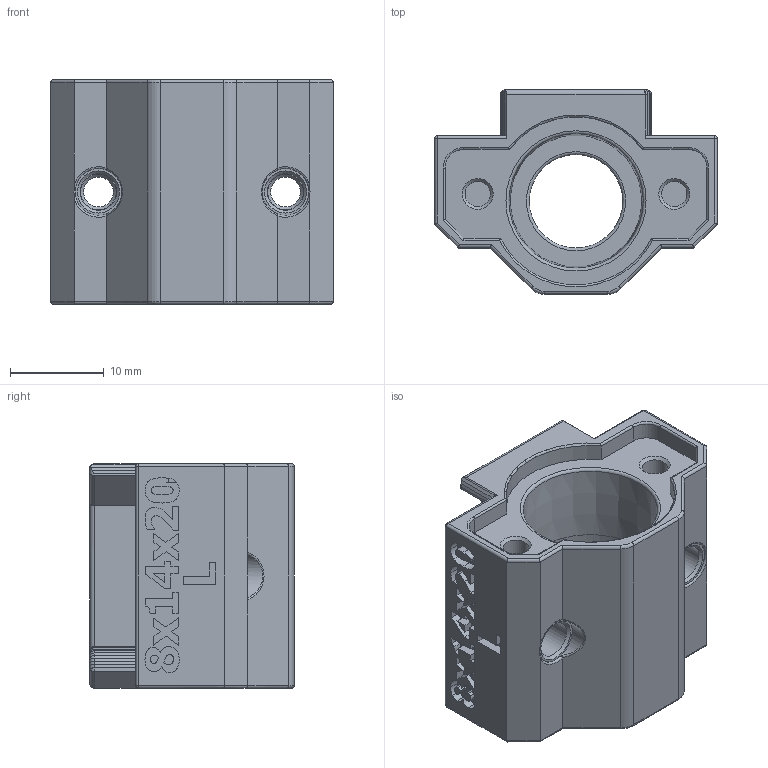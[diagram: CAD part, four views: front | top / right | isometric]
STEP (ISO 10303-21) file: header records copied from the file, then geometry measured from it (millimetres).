
FILE_DESCRIPTION(/* description */ ('FreeCAD Model'),/* implementation_level */ '2;1');
FILE_NAME(/* name */ '\\7800MBZ-PC\Maschinenbau-Projekte\Prusa_MK3_CAD\Linearlager\Linearlager-Sinterbuchsen-MK3-Y-Achse\Export_Step\PrusaMods_Y-Axis_Bearing_Holder_RJ4JP_+0.10_Loslager.stp',/* time_stamp */ '2023-04-06T12:47:37+02:00',/* author */ ('KHG'),/* organization */ (''),/* preprocessor_version */ 'ST-DEVELOPER v18.1',/* originating_system */ 'Autodesk Inventor 2020',/* authorisation */ 'Unknown');
FILE_SCHEMA (('AUTOMOTIVE_DESIGN { 1 0 10303 214 3 1 1 }'));
Length unit declared in the file: millimetre
Products named in the file (1): PrusaMods_Y-Axis_Bearing_Holder_RJ4JP_+0.10_Loslager
Bounding box: 30.2 x 21.86 x 24 mm (x, y, z)
Volume: 6987.1 mm3; surface area: 4788.6 mm2
Topology: 1 solids, 1 shells, 427 faces, 1102 edges, 707 vertices
Faces by surface type: plane 220, bspline 94, cylinder 86, torus 13, cone 10, sphere 4
Full cylindrical faces by diameter (mm): 2.7 x2, 3.2 x2, 3.9 x2, 5 x2, 10 x1
Entity records: 13744 total; most frequent: CARTESIAN_POINT 3832, ORIENTED_EDGE 2204, DIRECTION 1736, EDGE_CURVE 1102, LINE 736, VECTOR 736, VERTEX_POINT 707, AXIS2_PLACEMENT_3D 500
